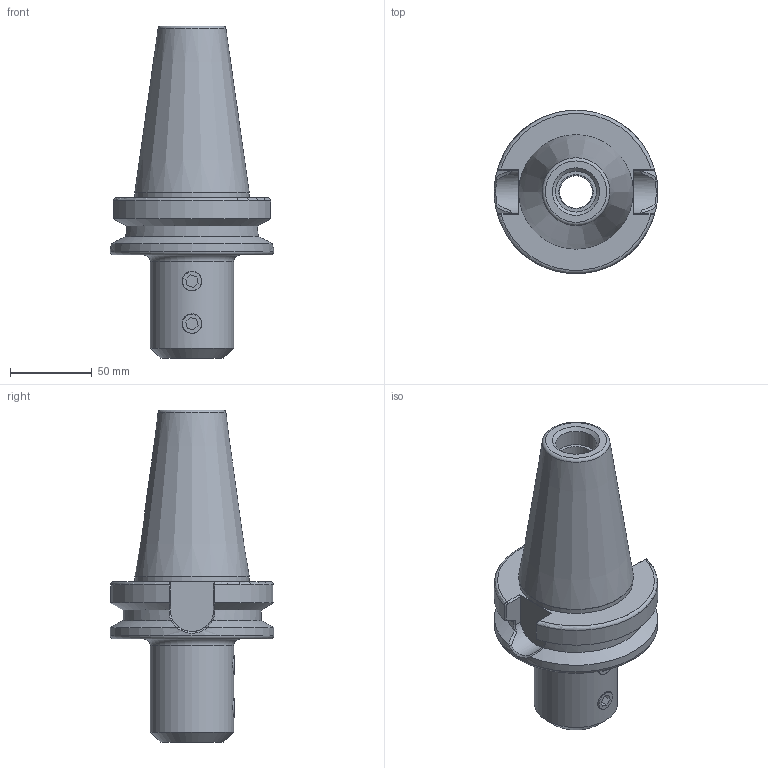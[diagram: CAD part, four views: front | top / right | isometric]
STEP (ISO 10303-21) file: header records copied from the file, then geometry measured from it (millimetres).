
FILE_DESCRIPTION(/* description */ (''),/* implementation_level */ '2;1');
FILE_NAME(/* name */ 'Z:\Проектный отдел\Алена\BT50-SLN20-90L\Оправка фрезерная (патрон) BT50-SLN20-90L.stp',/* time_stamp */ '2024-02-16T13:48:04+03:00',/* author */ ('User'),/* organization */ (''),/* preprocessor_version */ 'ST-DEVELOPER v18',/* originating_system */ 'Autodesk Inventor 2020',/* authorisation */ '');
FILE_SCHEMA (('AUTOMOTIVE_DESIGN { 1 0 10303 214 3 1 1 }'));
Length unit declared in the file: millimetre
Products named in the file (3): Оправка фрезерная 
(патрон) BT50-SLN20-90L; BT50-SLN20-90L; Сухарик
Assembly tree (3 placements, depth 2):
  Оправка фрезерная 
(патрон) BT50-SLN20-90L
    BT50-SLN20-90L
    Сухарик  x2
Bounding box: 100 x 100 x 203 mm (x, y, z)
Volume: 552183.9 mm3; surface area: 68769.2 mm2
Topology: 3 solids, 3 shells, 94 faces, 259 edges, 178 vertices
Faces by surface type: plane 43, bspline 22, cylinder 16, cone 8, torus 5
Full cylindrical faces by diameter (mm): 11.5 x2, 12 x2, 20 x1, 21 x1, 25 x1, 51 x1, 69.75 x1, 100 x1
Entity records: 3798 total; most frequent: CARTESIAN_POINT 1670, ORIENTED_EDGE 472, DIRECTION 331, EDGE_CURVE 236, VERTEX_POINT 162, AXIS2_PLACEMENT_3D 125, B_SPLINE_CURVE_WITH_KNOTS 99, EDGE_LOOP 96
